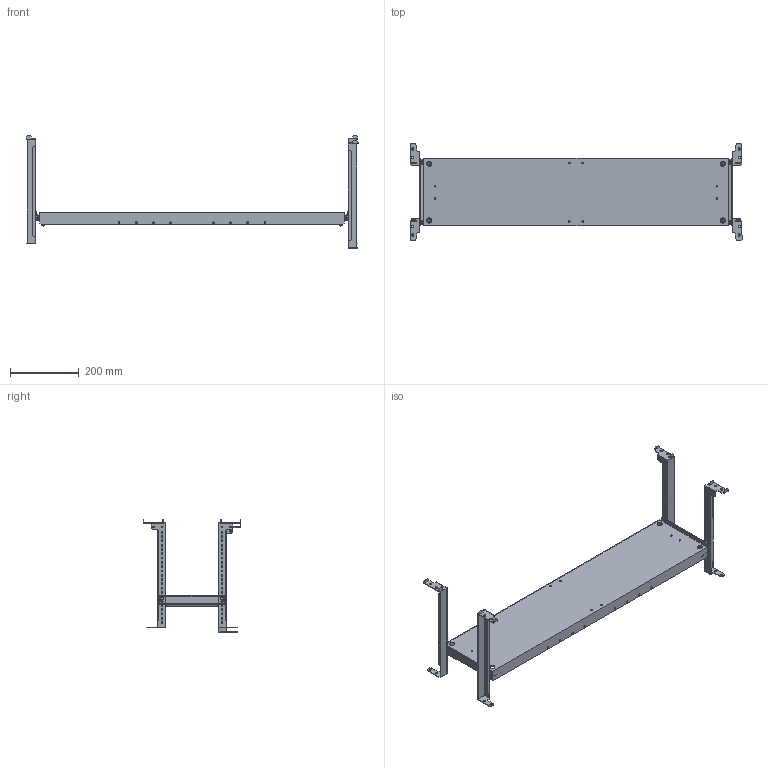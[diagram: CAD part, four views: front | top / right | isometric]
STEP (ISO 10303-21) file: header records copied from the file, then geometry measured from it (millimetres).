
FILE_DESCRIPTION (( 'STEP AP214' ), '1' );
FILE_NAME ('FO-00-MPU-020-100 Ïàíåëü ìîíòàæíàÿ óíèâåðñàëüíàÿ 200õ1000 ìì.STEP', '2025-07-16T07:57:42', ( '' ), ( '' ), 'SwSTEP 2.0', 'SolidWorks 2023', '' );
FILE_SCHEMA (( 'AUTOMOTIVE_DESIGN' ));
Length unit declared in the file: millimetre
Products named in the file (5): Панель монтажная универсальная 200х1000 мм; Траверса горизонтальная; FO-00-MPU-020-100 Панель монтажная универсальная 200х1000 мм; Траверса горизонтальнаяD; Винты DIN 912 4xM6x20 200x1000
Assembly tree (6 placements, depth 2):
  FO-00-MPU-020-100 Панель монтажная универсальная 200х1000 мм
    Панель монтажная универсальная 200х1000 мм
    Винты DIN 912 4xM6x20 200x1000
    Траверса горизонтальнаяD  x2
    Траверса горизонтальная  x2
Bounding box: 966 x 285 x 327 mm (x, y, z)
Volume: 716519.1 mm3; surface area: 733684.2 mm2
Topology: 9 solids, 13 shells, 987 faces, 2741 edges, 1828 vertices
Faces by surface type: cylinder 453, plane 442, cone 60, bspline 32
Entity records: 29080 total; most frequent: CARTESIAN_POINT 8915, ORIENTED_EDGE 4150, DIRECTION 4147, EDGE_CURVE 2075, AXIS2_PLACEMENT_3D 1506, VERTEX_POINT 1384, VECTOR 1135, LINE 1135
